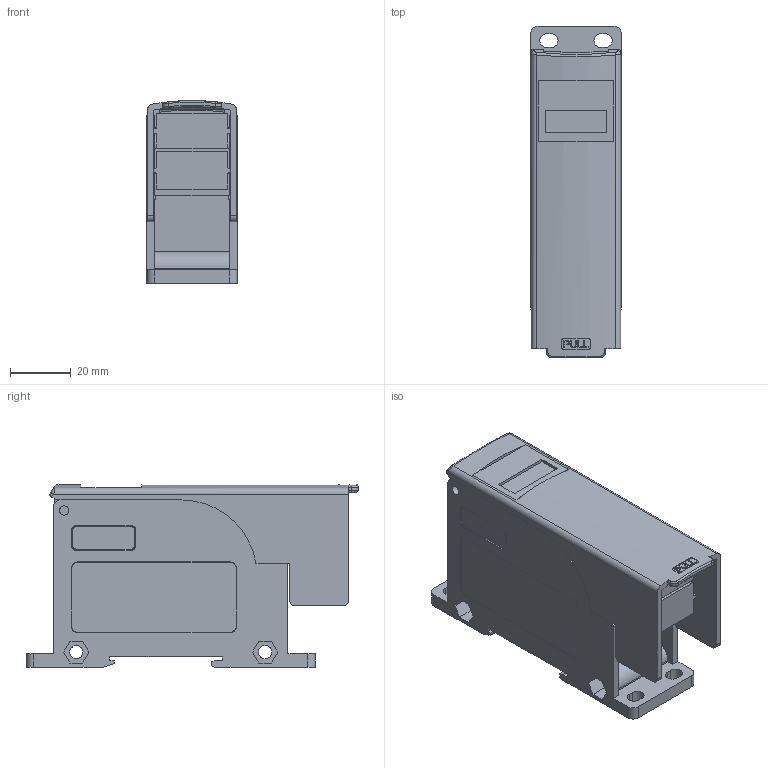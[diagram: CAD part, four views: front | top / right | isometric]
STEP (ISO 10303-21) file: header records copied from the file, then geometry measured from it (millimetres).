
FILE_DESCRIPTION(/* description */ (''),/* implementation_level */ '2;1');
FILE_NAME(/* name */ 'SPS30-M6_M6+2xM4-S.stp',/* time_stamp */ '2024-08-26T10:37:56+09:00',/* author */ (''),/* organization */ (''),/* preprocessor_version */ 'ST-DEVELOPER v16.7',/* originating_system */ 'SIEMENS PLM Software NX 12.0',/* authorisation */ '');
FILE_SCHEMA (('AP203_CONFIGURATION_CONTROLLED_3D_DESIGN_OF_MECHANICAL_PARTS_AND_ASSEMBLIES_MIM_LF { 1 0 10303 403 2 1 2}'));
Length unit declared in the file: millimetre
Products named in the file (1): wgye0F3891D5srlg
Bounding box: 29.8 x 109 x 59.99 mm (x, y, z)
Volume: 82984.7 mm3; surface area: 33309.1 mm2
Topology: 1 solids, 1 shells, 324 faces, 890 edges, 582 vertices
Faces by surface type: plane 206, cylinder 88, torus 11, bspline 8, extrusion 7, cone 4
Full cylindrical faces by diameter (mm): 3.1 x2, 4.3 x2
Entity records: 11102 total; most frequent: CARTESIAN_POINT 2700, ORIENTED_EDGE 1764, DIRECTION 1666, EDGE_CURVE 882, VECTOR 632, LINE 625, VERTEX_POINT 578, AXIS2_PLACEMENT_3D 517
